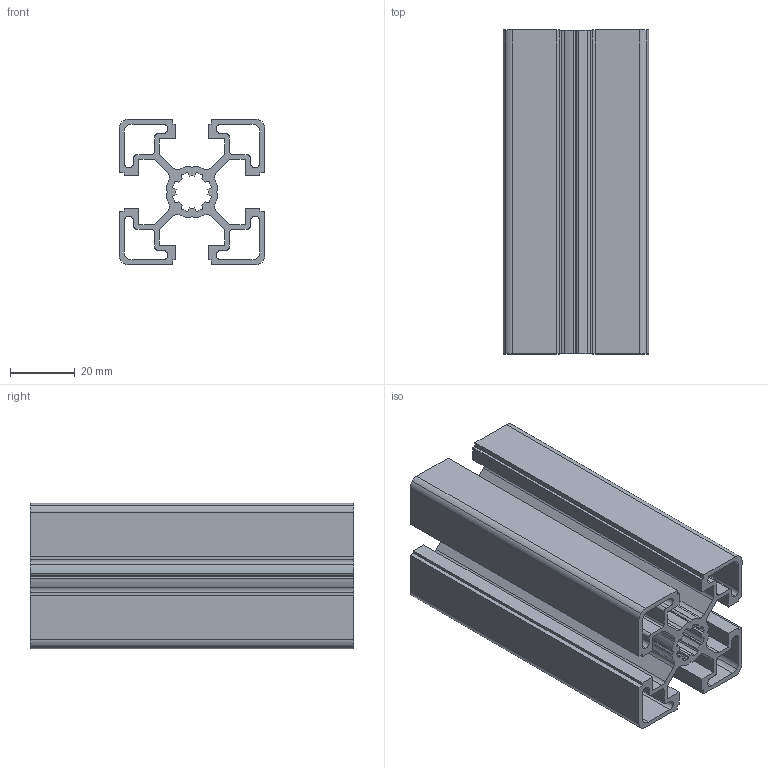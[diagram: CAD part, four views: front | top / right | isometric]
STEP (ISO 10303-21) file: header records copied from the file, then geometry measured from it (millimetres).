
FILE_DESCRIPTION (( 'STEP AP203' ), '1' );
FILE_NAME ('0110P4545L.STEP', '2024-03-01T11:46:06', ( 'Windows-Benutzer' ), ( '' ), 'SwSTEP 2.0', 'SolidWorks 2023', '' );
FILE_SCHEMA (( 'CONFIG_CONTROL_DESIGN' ));
Length unit declared in the file: millimetre
Products named in the file (1): 0110P4545L
Bounding box: 45 x 100 x 45 mm (x, y, z)
Volume: 56702.5 mm3; surface area: 61680.4 mm2
Topology: 1 solids, 1 shells, 229 faces, 681 edges, 454 vertices
Faces by surface type: cylinder 123, plane 106
Entity records: 7858 total; most frequent: DIRECTION 1387, CARTESIAN_POINT 1365, ORIENTED_EDGE 1362, EDGE_CURVE 681, AXIS2_PLACEMENT_3D 476, VERTEX_POINT 454, LINE 435, VECTOR 435
